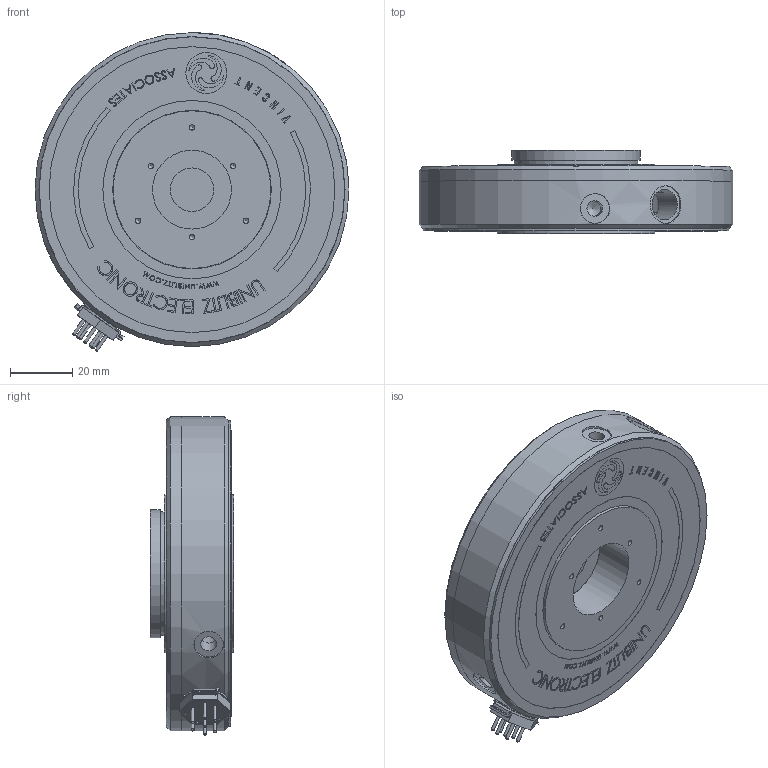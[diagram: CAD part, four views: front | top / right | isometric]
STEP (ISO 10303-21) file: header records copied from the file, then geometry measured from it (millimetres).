
FILE_DESCRIPTION (( 'STEP AP214' ), '1' );
FILE_NAME ('vs14-housed-3d-model(061020).STEP', '2020-06-10T12:47:47', ( '' ), ( '' ), 'SwSTEP 2.0', 'SolidWorks 2019', '' );
FILE_SCHEMA (( 'AUTOMOTIVE_DESIGN' ));
Length unit declared in the file: inch
Products named in the file (1): vs14-housed-3d-model(061020)
Bounding box: 101.09 x 26.8 x 102.61 mm (x, y, z)
Volume: 96997.1 mm3; surface area: 60142.3 mm2
Topology: 11 solids, 11 shells, 1100 faces, 2864 edges, 1892 vertices
Faces by surface type: plane 600, cylinder 193, bspline 175, cone 132
Full cylindrical faces by diameter (mm): 1.016 x7, 1.143 x7, 1.524 x7, 1.778 x6, 2.261 x7, 2.388 x1, 2.845 x60, 3.251 x4, 4.699 x1, 5.105 x2, 5.207 x4, 5.563 x4, 9.525 x2, 9.921 x1, 11.049 x1, 11.509 x1, 12.065 x1, 12.827 x1, 12.954 x1, 13.208 x1, 14 x1, 25.4 x3, 27.94 x1, 39.878 x1, 41.275 x1, 41.91 x1, 50.8 x2, 51.054 x1, 57.404 x1, 88.138 x1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
Entity records: 49729 total; most frequent: CARTESIAN_POINT 21985, ORIENTED_EDGE 4744, DIRECTION 4244, EDGE_CURVE 2372, VERTEX_POINT 1681, LINE 1518, VECTOR 1518, EDGE_LOOP 1515
